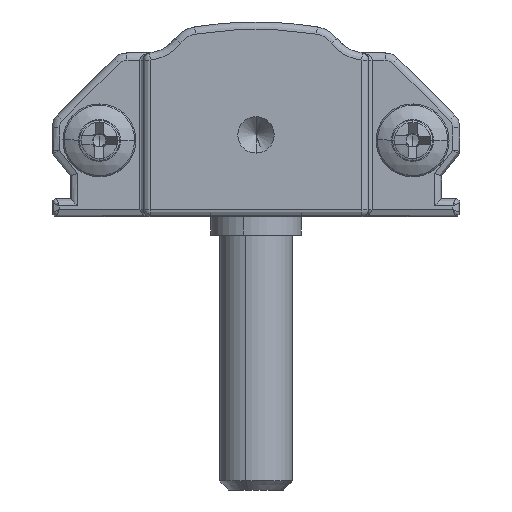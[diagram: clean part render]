
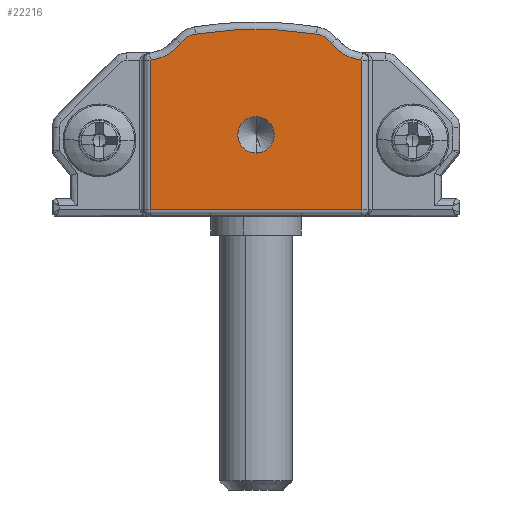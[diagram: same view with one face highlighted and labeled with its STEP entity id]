
A CAD part, front view. The second image highlights one B-rep face of the part: STEP entity #22216.
In plain terms, the highlighted planar face has unit normal (0, -1, 0).
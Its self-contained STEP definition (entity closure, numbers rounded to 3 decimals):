
#81 = AXIS2_PLACEMENT_3D ( 'NONE', #13603, #13135, #8647 ) ;
#169 = AXIS2_PLACEMENT_3D ( 'NONE', #11666, #24627, #19880 ) ;
#522 = AXIS2_PLACEMENT_3D ( 'NONE', #16486, #18640, #23706 ) ;
#698 = LINE ( 'NONE', #30744, #30022 ) ;
#894 = DIRECTION ( 'NONE',  ( 0., -1., 0. ) ) ;
#1543 = ORIENTED_EDGE ( 'NONE', *, *, #31386, .T. ) ;
#1552 = ORIENTED_EDGE ( 'NONE', *, *, #10136, .T. ) ;
#1735 = DIRECTION ( 'NONE',  ( 0., 1., 0. ) ) ;
#2083 = CARTESIAN_POINT ( 'NONE',  ( 22.15, -15., 3.606 ) ) ;
#2182 = CARTESIAN_POINT ( 'NONE',  ( 15.332, -15., 9.541 ) ) ;
#2415 = DIRECTION ( 'NONE',  ( 0., 0., -1. ) ) ;
#2512 = CARTESIAN_POINT ( 'NONE',  ( 17., -15., 8.612 ) ) ;
#2863 = CARTESIAN_POINT ( 'NONE',  ( 17., -15., 8.612 ) ) ;
#4421 = CARTESIAN_POINT ( 'NONE',  ( 17., -15., 0.4 ) ) ;
#4759 = CARTESIAN_POINT ( 'NONE',  ( 5.4, -15., 0.4 ) ) ;
#4929 = CARTESIAN_POINT ( 'NONE',  ( 11.2, -15., 3.5 ) ) ;
#4974 = EDGE_CURVE ( 'NONE', #11524, #7512, #23631, .T. ) ;
#5670 = DIRECTION ( 'NONE',  ( 0., 0., -1. ) ) ;
#6270 = CIRCLE ( 'NONE', #522, 1.3 ) ;
#6413 = CIRCLE ( 'NONE', #169, 2.4 ) ;
#6786 = CARTESIAN_POINT ( 'NONE',  ( 17., -15., 0.4 ) ) ;
#7138 = EDGE_CURVE ( 'NONE', #11833, #17137, #17279, .T. ) ;
#7512 = VERTEX_POINT ( 'NONE', #31058 ) ;
#7648 = EDGE_CURVE ( 'NONE', #23666, #11833, #32028, .T. ) ;
#7966 = ORIENTED_EDGE ( 'NONE', *, *, #24282, .T. ) ;
#8180 = DIRECTION ( 'NONE',  ( 0., 0., -1. ) ) ;
#8405 = CIRCLE ( 'NONE', #10508, 20.676 ) ;
#8513 = CARTESIAN_POINT ( 'NONE',  ( 11.2, -15., -10.376 ) ) ;
#8526 = ORIENTED_EDGE ( 'NONE', *, *, #7138, .T. ) ;
#8647 = DIRECTION ( 'NONE',  ( 0., 0., -1. ) ) ;
#8900 = VECTOR ( 'NONE', #12351, 1000. ) ;
#9450 = PLANE ( 'NONE',  #18973 ) ;
#9480 = DIRECTION ( 'NONE',  ( 1., 0., 0. ) ) ;
#10136 = EDGE_CURVE ( 'NONE', #17137, #20250, #26831, .T. ) ;
#10508 = AXIS2_PLACEMENT_3D ( 'NONE', #8513, #18557, #16100 ) ;
#11406 = CARTESIAN_POINT ( 'NONE',  ( 7.068, -15., 9.541 ) ) ;
#11524 = VERTEX_POINT ( 'NONE', #4929 ) ;
#11666 = CARTESIAN_POINT ( 'NONE',  ( 5.162, -15., 11. ) ) ;
#11833 = VERTEX_POINT ( 'NONE', #6786 ) ;
#12351 = DIRECTION ( 'NONE',  ( 0., 0., 1. ) ) ;
#12402 = DIRECTION ( 'NONE',  ( 0., -1., 0. ) ) ;
#13135 = DIRECTION ( 'NONE',  ( 0., -1., 0. ) ) ;
#13202 = CARTESIAN_POINT ( 'NONE',  ( 11.2, -15., 4.5 ) ) ;
#13560 = DIRECTION ( 'NONE',  ( 0., -1., 0. ) ) ;
#13562 = CARTESIAN_POINT ( 'NONE',  ( 14.508, -15., 10.034 ) ) ;
#13603 = CARTESIAN_POINT ( 'NONE',  ( 11.2, -15., 4.5 ) ) ;
#15109 = EDGE_CURVE ( 'NONE', #20250, #23857, #6270, .T. ) ;
#15175 = DIRECTION ( 'NONE',  ( 0., 0., -1. ) ) ;
#15311 = ORIENTED_EDGE ( 'NONE', *, *, #16480, .T. ) ;
#16100 = DIRECTION ( 'NONE',  ( 0., 0., -1. ) ) ;
#16480 = EDGE_CURVE ( 'NONE', #23857, #17979, #8405, .T. ) ;
#16486 = CARTESIAN_POINT ( 'NONE',  ( 14.3, -15., 8.75 ) ) ;
#16671 = CARTESIAN_POINT ( 'NONE',  ( 17.238, -15., 11. ) ) ;
#17137 = VERTEX_POINT ( 'NONE', #2863 ) ;
#17166 = EDGE_CURVE ( 'NONE', #31501, #29144, #6413, .T. ) ;
#17279 = LINE ( 'NONE', #2512, #8900 ) ;
#17484 = CIRCLE ( 'NONE', #25865, 1.3 ) ;
#17979 = VERTEX_POINT ( 'NONE', #31063 ) ;
#18381 = ORIENTED_EDGE ( 'NONE', *, *, #15109, .T. ) ;
#18557 = DIRECTION ( 'NONE',  ( 0., -1., 0. ) ) ;
#18640 = DIRECTION ( 'NONE',  ( 0., -1., 0. ) ) ;
#18973 = AXIS2_PLACEMENT_3D ( 'NONE', #2083, #12402, #2415 ) ;
#19880 = DIRECTION ( 'NONE',  ( 0., 0., -1. ) ) ;
#20250 = VERTEX_POINT ( 'NONE', #2182 ) ;
#22110 = AXIS2_PLACEMENT_3D ( 'NONE', #16671, #1735, #29644 ) ;
#22216 = ADVANCED_FACE ( 'NONE', ( #27011, #24552 ), #9450, .T. ) ;
#22244 = ORIENTED_EDGE ( 'NONE', *, *, #17166, .T. ) ;
#23515 = EDGE_LOOP ( 'NONE', ( #8526, #1552, #18381, #15311, #1543, #22244, #7966, #28440 ) ) ;
#23631 = CIRCLE ( 'NONE', #81, 1. ) ;
#23666 = VERTEX_POINT ( 'NONE', #4759 ) ;
#23706 = DIRECTION ( 'NONE',  ( 0., 0., -1. ) ) ;
#23857 = VERTEX_POINT ( 'NONE', #13562 ) ;
#24282 = EDGE_CURVE ( 'NONE', #29144, #23666, #698, .T. ) ;
#24552 = FACE_BOUND ( 'NONE', #29452, .T. ) ;
#24627 = DIRECTION ( 'NONE',  ( 0., 1., 0. ) ) ;
#25865 = AXIS2_PLACEMENT_3D ( 'NONE', #25870, #13560, #5670 ) ;
#25870 = CARTESIAN_POINT ( 'NONE',  ( 8.1, -15., 8.75 ) ) ;
#26698 = ORIENTED_EDGE ( 'NONE', *, *, #4974, .F. ) ;
#26831 = CIRCLE ( 'NONE', #22110, 2.4 ) ;
#27011 = FACE_OUTER_BOUND ( 'NONE', #23515, .T. ) ;
#27805 = EDGE_CURVE ( 'NONE', #7512, #11524, #28790, .T. ) ;
#28440 = ORIENTED_EDGE ( 'NONE', *, *, #7648, .T. ) ;
#28790 = CIRCLE ( 'NONE', #32506, 1. ) ;
#28901 = VECTOR ( 'NONE', #9480, 1000. ) ;
#29144 = VERTEX_POINT ( 'NONE', #29909 ) ;
#29351 = ORIENTED_EDGE ( 'NONE', *, *, #27805, .F. ) ;
#29452 = EDGE_LOOP ( 'NONE', ( #26698, #29351 ) ) ;
#29644 = DIRECTION ( 'NONE',  ( 0., 0., -1. ) ) ;
#29909 = CARTESIAN_POINT ( 'NONE',  ( 5.4, -15., 8.612 ) ) ;
#30022 = VECTOR ( 'NONE', #8180, 1000. ) ;
#30744 = CARTESIAN_POINT ( 'NONE',  ( 5.4, -15., 0.4 ) ) ;
#31058 = CARTESIAN_POINT ( 'NONE',  ( 11.2, -15., 5.5 ) ) ;
#31063 = CARTESIAN_POINT ( 'NONE',  ( 7.892, -15., 10.034 ) ) ;
#31386 = EDGE_CURVE ( 'NONE', #17979, #31501, #17484, .T. ) ;
#31501 = VERTEX_POINT ( 'NONE', #11406 ) ;
#32028 = LINE ( 'NONE', #4421, #28901 ) ;
#32506 = AXIS2_PLACEMENT_3D ( 'NONE', #13202, #894, #15175 ) ;
